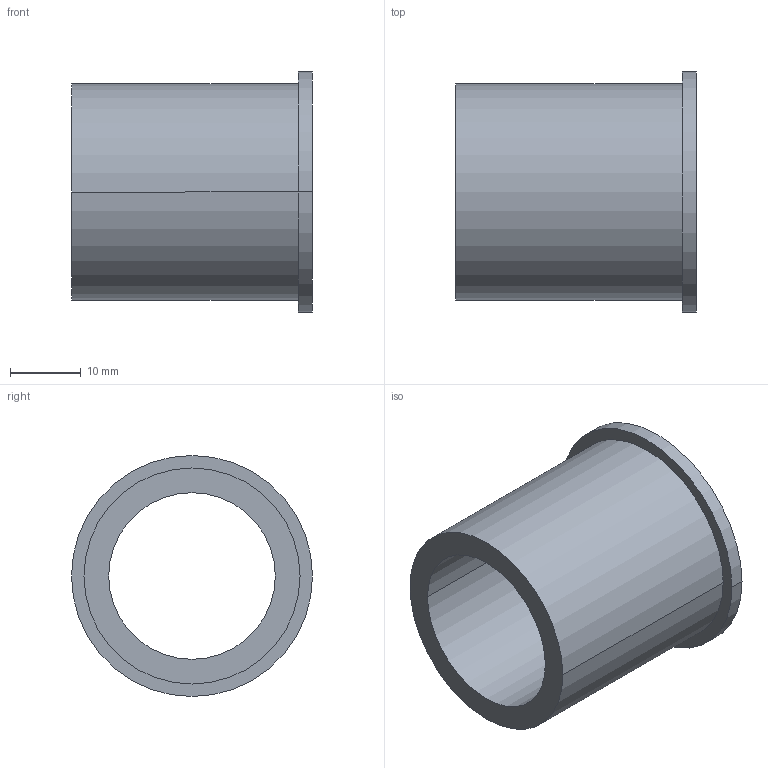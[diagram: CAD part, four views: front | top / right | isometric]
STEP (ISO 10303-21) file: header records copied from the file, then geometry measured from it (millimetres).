
FILE_DESCRIPTION(('Creo Elements/Direct Modeling STEP Export'),'2;1');
FILE_NAME('H05-0040-CL901_G36-30B.stp','2012-09-28T14:01:58',(''),(''),'Creo Elements/Direct Modeling STEP processor for AP214 (Solid Model)','Creo Elements/Direct Modeling 18.0B 02-Dec-2011 (C) Parametric Technology GmbH','');
FILE_SCHEMA(('AUTOMOTIVE_DESIGN { 1 0 10303 214 1 1 1 1 }'));
Length unit declared in the file: millimetre
Products named in the file (2): G36-30B
Assembly tree (1 placements, depth 2):
  G36-30B
    G36-30B
Bounding box: 34 x 34 x 34 mm (x, y, z)
Volume: 10448.5 mm3; surface area: 6738.3 mm2
Topology: 1 solids, 1 shells, 9 faces, 18 edges, 12 vertices
Faces by surface type: cylinder 6, plane 3
Entity records: 263 total; most frequent: DIRECTION 40, ORIENTED_EDGE 36, CARTESIAN_POINT 35, EDGE_CURVE 18, AXIS2_PLACEMENT_3D 17, VERTEX_POINT 12, EDGE_LOOP 12, FACE_OUTER_BOUND 9
